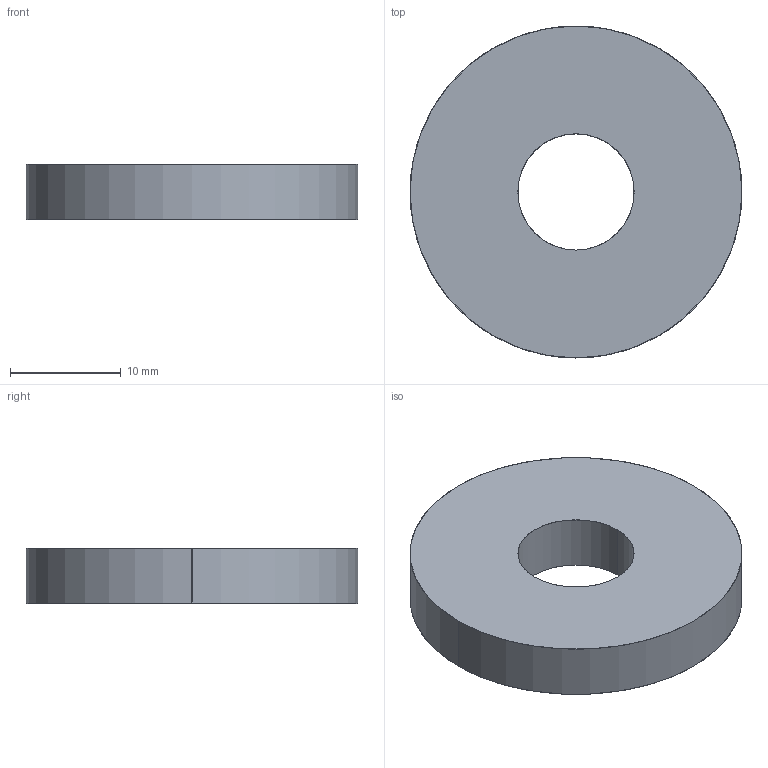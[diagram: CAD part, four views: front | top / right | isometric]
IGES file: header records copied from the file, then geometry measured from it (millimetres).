
Start section: SolidWorks IGES file using analytic representation for surfaces
Global section: file name: D:\Current\W1\TPG\TPG30-5-1.igs; native system: SolidWorks 2017; preprocessor: SolidWorks 2017; author: Ravi Kalvai; date: 240605.112831; units: millimetre
Bounding box: 30 x 30 x 5 mm (x, y, z)
Surface area: 1876.7 mm2 (no closed solid volume)
Topology: 0 solids, 0 shells, 6 faces, 208 edges, 208 vertices
Faces by surface type: revolution 4, bspline 2
